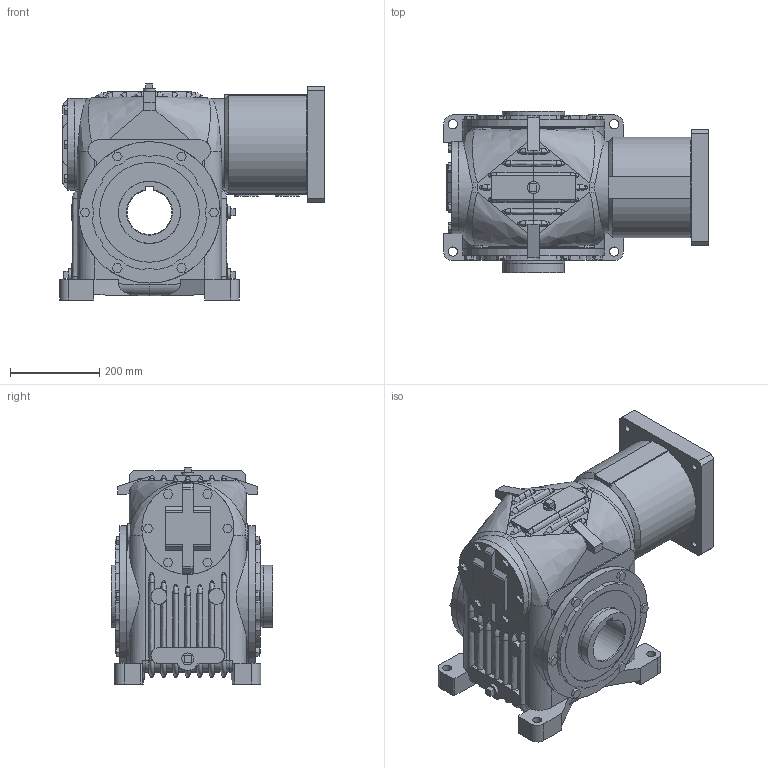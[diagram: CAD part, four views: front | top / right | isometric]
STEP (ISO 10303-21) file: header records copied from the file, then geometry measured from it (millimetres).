
FILE_DESCRIPTION(/* description */ ('Unknown'),/* implementation_level */ '2;1');
FILE_NAME(/* name */ 'O60CU-1-R11SBD-',/* time_stamp */ '2024-11-21T11:42:31-05:00',/* author */ ('Unknown'),/* organization */ ('Unknown'),/* preprocessor_version */ 'ST-DEVELOPER v19.4',/* originating_system */ 'Solid Edge',/* authorisation */ 'Unknown');
FILE_SCHEMA (('AUTOMOTIVE_DESIGN {1 0 10303 214 3 1 1}'));
Length unit declared in the file: millimetre
Products named in the file (8): O60CU-1-R11SBD-; 60-1-CP; 60-OUTHS-3937; 60-OUTH-3937; 60-WCAP; 60-SM20-CP; MP4R-11-CP; KM600-S-48
Assembly tree (7 placements, depth 2):
  O60CU-1-R11SBD-
    60-1-CP
    60-OUTHS-3937
    60-OUTH-3937
    60-WCAP
    60-SM20-CP
    MP4R-11-CP
    KM600-S-48
Bounding box: 594.31 x 361.95 x 484.92 mm (x, y, z)
Volume: 43490927.7 mm3; surface area: 2258769.6 mm2
Topology: 7 solids, 7 shells, 717 faces, 1856 edges, 1227 vertices
Faces by surface type: plane 403, cylinder 181, bspline 128, cone 5
Full cylindrical faces by diameter (mm): 0.254 x7, 12.7 x8, 13.835 x4, 19.05 x6, 20.637 x4, 26.924 x4, 35.56 x4, 44.437 x1, 44.45 x1, 46.038 x1, 94.5 x1, 98.425 x1, 122 x1, 139 x1, 139.065 x1, 139.7 x4, 140.208 x2, 152.4 x1, 152.908 x1, 155.575 x1, 199.998 x1, 200 x1, 206.248 x3, 209.55 x1, 223.774 x2, 250 x1, 317.5 x4
Entity records: 36677 total; most frequent: CARTESIAN_POINT 18350, ORIENTED_EDGE 3522, DIRECTION 2987, EDGE_CURVE 1761, VERTEX_POINT 1200, AXIS2_PLACEMENT_3D 1029, LINE 929, VECTOR 929
